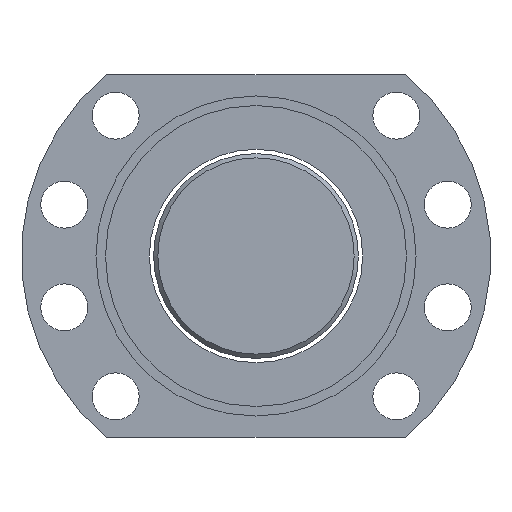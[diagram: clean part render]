
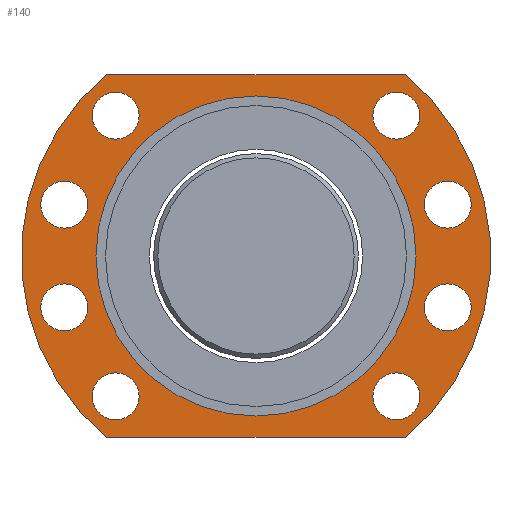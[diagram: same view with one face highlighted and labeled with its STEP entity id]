
A CAD part, left-side view. The second image highlights one B-rep face of the part: STEP entity #140.
In plain terms, the highlighted planar face has unit normal (-1, 0, 0).
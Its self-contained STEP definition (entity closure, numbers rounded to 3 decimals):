
#140=ADVANCED_FACE('',(#239,#240,#241,#242,#243,#244,#245,#246,#247,#248),
#192,.T.);
#192=PLANE('',#793);
#215=LINE('',#1151,#223);
#216=LINE('',#1155,#224);
#223=VECTOR('',#920,1.);
#224=VECTOR('',#923,1.);
#239=FACE_BOUND('',#347,.T.);
#240=FACE_BOUND('',#348,.T.);
#241=FACE_BOUND('',#349,.T.);
#242=FACE_BOUND('',#350,.T.);
#243=FACE_BOUND('',#351,.T.);
#244=FACE_BOUND('',#352,.T.);
#245=FACE_BOUND('',#353,.T.);
#246=FACE_BOUND('',#354,.T.);
#247=FACE_BOUND('',#355,.T.);
#248=FACE_BOUND('',#356,.T.);
#347=EDGE_LOOP('',(#464));
#348=EDGE_LOOP('',(#465));
#349=EDGE_LOOP('',(#466));
#350=EDGE_LOOP('',(#467));
#351=EDGE_LOOP('',(#468));
#352=EDGE_LOOP('',(#469,#470,#471,#472));
#353=EDGE_LOOP('',(#473));
#354=EDGE_LOOP('',(#474));
#355=EDGE_LOOP('',(#475));
#356=EDGE_LOOP('',(#476));
#464=ORIENTED_EDGE('',*,*,#658,.T.);
#465=ORIENTED_EDGE('',*,*,#659,.T.);
#466=ORIENTED_EDGE('',*,*,#660,.F.);
#467=ORIENTED_EDGE('',*,*,#661,.F.);
#468=ORIENTED_EDGE('',*,*,#662,.F.);
#469=ORIENTED_EDGE('',*,*,#663,.T.);
#470=ORIENTED_EDGE('',*,*,#664,.T.);
#471=ORIENTED_EDGE('',*,*,#665,.T.);
#472=ORIENTED_EDGE('',*,*,#666,.T.);
#473=ORIENTED_EDGE('',*,*,#667,.F.);
#474=ORIENTED_EDGE('',*,*,#668,.T.);
#475=ORIENTED_EDGE('',*,*,#669,.F.);
#476=ORIENTED_EDGE('',*,*,#670,.T.);
#596=VERTEX_POINT('',#1139);
#597=VERTEX_POINT('',#1141);
#598=VERTEX_POINT('',#1143);
#599=VERTEX_POINT('',#1145);
#600=VERTEX_POINT('',#1147);
#601=VERTEX_POINT('',#1149);
#602=VERTEX_POINT('',#1150);
#603=VERTEX_POINT('',#1152);
#604=VERTEX_POINT('',#1154);
#605=VERTEX_POINT('',#1157);
#606=VERTEX_POINT('',#1159);
#607=VERTEX_POINT('',#1161);
#608=VERTEX_POINT('',#1163);
#658=EDGE_CURVE('',#596,#596,#722,.T.);
#659=EDGE_CURVE('',#597,#597,#723,.T.);
#660=EDGE_CURVE('',#598,#598,#724,.T.);
#661=EDGE_CURVE('',#599,#599,#725,.T.);
#662=EDGE_CURVE('',#600,#600,#726,.T.);
#663=EDGE_CURVE('',#601,#602,#727,.T.);
#664=EDGE_CURVE('',#602,#603,#215,.T.);
#665=EDGE_CURVE('',#603,#604,#728,.T.);
#666=EDGE_CURVE('',#604,#601,#216,.T.);
#667=EDGE_CURVE('',#605,#605,#729,.T.);
#668=EDGE_CURVE('',#606,#606,#730,.T.);
#669=EDGE_CURVE('',#607,#607,#731,.T.);
#670=EDGE_CURVE('',#608,#608,#732,.T.);
#722=CIRCLE('',#782,5.5);
#723=CIRCLE('',#783,5.5);
#724=CIRCLE('',#784,5.5);
#725=CIRCLE('',#785,5.5);
#726=CIRCLE('',#786,5.5);
#727=CIRCLE('',#787,55.);
#728=CIRCLE('',#788,55.);
#729=CIRCLE('',#789,37.5);
#730=CIRCLE('',#790,5.5);
#731=CIRCLE('',#791,5.5);
#732=CIRCLE('',#792,5.5);
#782=AXIS2_PLACEMENT_3D('',#1138,#908,#909);
#783=AXIS2_PLACEMENT_3D('',#1140,#910,#911);
#784=AXIS2_PLACEMENT_3D('',#1142,#912,#913);
#785=AXIS2_PLACEMENT_3D('',#1144,#914,#915);
#786=AXIS2_PLACEMENT_3D('',#1146,#916,#917);
#787=AXIS2_PLACEMENT_3D('',#1148,#918,#919);
#788=AXIS2_PLACEMENT_3D('',#1153,#921,#922);
#789=AXIS2_PLACEMENT_3D('',#1156,#924,#925);
#790=AXIS2_PLACEMENT_3D('',#1158,#926,#927);
#791=AXIS2_PLACEMENT_3D('',#1160,#928,#929);
#792=AXIS2_PLACEMENT_3D('',#1162,#930,#931);
#793=AXIS2_PLACEMENT_3D('',#1164,#932,#933);
#908=DIRECTION('',(1.,0.,0.));
#909=DIRECTION('',(0.,0.,1.));
#910=DIRECTION('',(1.,0.,0.));
#911=DIRECTION('',(0.,0.,1.));
#912=DIRECTION('',(-1.,0.,0.));
#913=DIRECTION('',(0.,0.,1.));
#914=DIRECTION('',(-1.,0.,0.));
#915=DIRECTION('',(0.,0.,1.));
#916=DIRECTION('',(-1.,0.,0.));
#917=DIRECTION('',(0.,0.,1.));
#918=DIRECTION('',(-1.,0.,0.));
#919=DIRECTION('',(0.,0.,-1.));
#920=DIRECTION('',(0.,-1.,0.));
#921=DIRECTION('',(-1.,0.,0.));
#922=DIRECTION('',(0.,0.,-1.));
#923=DIRECTION('',(0.,1.,0.));
#924=DIRECTION('',(-1.,0.,0.));
#925=DIRECTION('',(0.,0.,-1.));
#926=DIRECTION('',(1.,0.,0.));
#927=DIRECTION('',(0.,0.,1.));
#928=DIRECTION('',(-1.,0.,0.));
#929=DIRECTION('',(0.,0.,1.));
#930=DIRECTION('',(1.,0.,0.));
#931=DIRECTION('',(0.,0.,1.));
#932=DIRECTION('',(-1.,0.,0.));
#933=DIRECTION('',(0.,0.,1.));
#1138=CARTESIAN_POINT('',(-571.324,-145.1,-11.94));
#1139=CARTESIAN_POINT('',(-571.324,-145.1,-6.44));
#1140=CARTESIAN_POINT('',(-571.324,-133.065,-56.856));
#1141=CARTESIAN_POINT('',(-571.324,-133.065,-51.356));
#1142=CARTESIAN_POINT('',(-571.324,-67.304,-56.856));
#1143=CARTESIAN_POINT('',(-571.324,-67.304,-51.356));
#1144=CARTESIAN_POINT('',(-571.324,-55.269,-11.94));
#1145=CARTESIAN_POINT('',(-571.324,-55.269,-6.44));
#1146=CARTESIAN_POINT('',(-571.324,-55.269,-36.01));
#1147=CARTESIAN_POINT('',(-571.324,-55.269,-30.51));
#1148=CARTESIAN_POINT('',(-571.324,-100.184,-23.975));
#1149=CARTESIAN_POINT('',(-571.324,-65.273,18.525));
#1150=CARTESIAN_POINT('',(-571.324,-65.273,-66.475));
#1151=CARTESIAN_POINT('',(-571.324,-65.273,-66.475));
#1152=CARTESIAN_POINT('',(-571.324,-135.095,-66.475));
#1153=CARTESIAN_POINT('',(-571.324,-100.184,-23.975));
#1154=CARTESIAN_POINT('',(-571.324,-135.095,18.525));
#1155=CARTESIAN_POINT('',(-571.324,-135.095,18.525));
#1156=CARTESIAN_POINT('',(-571.324,-100.184,-23.975));
#1157=CARTESIAN_POINT('',(-571.324,-100.184,-61.475));
#1158=CARTESIAN_POINT('',(-571.324,-145.1,-36.01));
#1159=CARTESIAN_POINT('',(-571.324,-145.1,-30.51));
#1160=CARTESIAN_POINT('',(-571.324,-67.304,8.905));
#1161=CARTESIAN_POINT('',(-571.324,-67.304,14.405));
#1162=CARTESIAN_POINT('',(-571.324,-133.065,8.905));
#1163=CARTESIAN_POINT('',(-571.324,-133.065,14.405));
#1164=CARTESIAN_POINT('',(-571.324,-100.184,-23.975));
